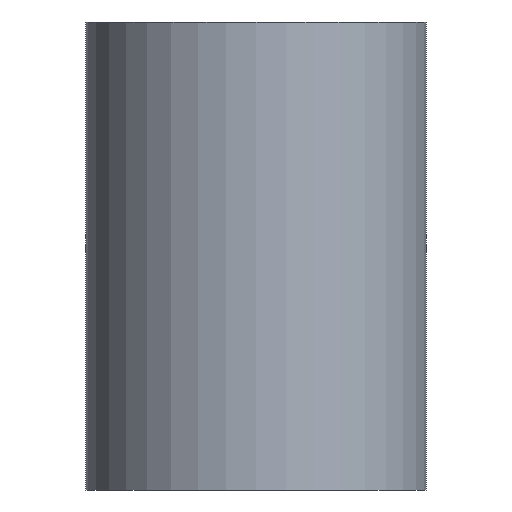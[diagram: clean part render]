
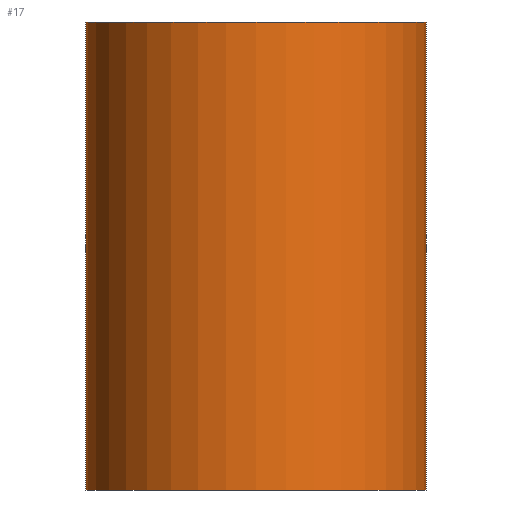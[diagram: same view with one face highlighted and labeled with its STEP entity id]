
A CAD part, front view. The second image highlights one B-rep face of the part: STEP entity #17.
In plain terms, the highlighted cylindrical face has radius 2 mm (diameter 4 mm), a full revolution.
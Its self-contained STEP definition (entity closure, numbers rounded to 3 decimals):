
#17 = ADVANCED_FACE('',(#18),#32,.T.);
#18 = FACE_BOUND('',#19,.F.);
#19 = EDGE_LOOP('',(#20,#50,#77,#78));
#20 = ORIENTED_EDGE('',*,*,#21,.T.);
#21 = EDGE_CURVE('',#22,#24,#26,.T.);
#22 = VERTEX_POINT('',#23);
#23 = CARTESIAN_POINT('',(-8.8,-43.,3.15));
#24 = VERTEX_POINT('',#25);
#25 = CARTESIAN_POINT('',(-8.8,-43.,8.65));
#26 = SEAM_CURVE('',#27,(#31,#43),.PCURVE_S1.);
#27 = LINE('',#28,#29);
#28 = CARTESIAN_POINT('',(-8.8,-43.,3.15));
#29 = VECTOR('',#30,1.);
#30 = DIRECTION('',(0.,0.,1.));
#31 = PCURVE('',#32,#37);
#32 = CYLINDRICAL_SURFACE('',#33,2.);
#33 = AXIS2_PLACEMENT_3D('',#34,#35,#36);
#34 = CARTESIAN_POINT('',(-10.8,-43.,3.15));
#35 = DIRECTION('',(-0.,-0.,-1.));
#36 = DIRECTION('',(1.,0.,0.));
#37 = DEFINITIONAL_REPRESENTATION('',(#38),#42);
#38 = LINE('',#39,#40);
#39 = CARTESIAN_POINT('',(-0.,0.));
#40 = VECTOR('',#41,1.);
#41 = DIRECTION('',(-0.,-1.));
#42 = ( GEOMETRIC_REPRESENTATION_CONTEXT(2) 
PARAMETRIC_REPRESENTATION_CONTEXT() REPRESENTATION_CONTEXT('2D SPACE',''
  ) );
#43 = PCURVE('',#32,#44);
#44 = DEFINITIONAL_REPRESENTATION('',(#45),#49);
#45 = LINE('',#46,#47);
#46 = CARTESIAN_POINT('',(-6.283,0.));
#47 = VECTOR('',#48,1.);
#48 = DIRECTION('',(-0.,-1.));
#49 = ( GEOMETRIC_REPRESENTATION_CONTEXT(2) 
PARAMETRIC_REPRESENTATION_CONTEXT() REPRESENTATION_CONTEXT('2D SPACE',''
  ) );
#50 = ORIENTED_EDGE('',*,*,#51,.T.);
#51 = EDGE_CURVE('',#24,#24,#52,.T.);
#52 = SURFACE_CURVE('',#53,(#58,#65),.PCURVE_S1.);
#53 = CIRCLE('',#54,2.);
#54 = AXIS2_PLACEMENT_3D('',#55,#56,#57);
#55 = CARTESIAN_POINT('',(-10.8,-43.,8.65));
#56 = DIRECTION('',(0.,0.,1.));
#57 = DIRECTION('',(1.,0.,0.));
#58 = PCURVE('',#32,#59);
#59 = DEFINITIONAL_REPRESENTATION('',(#60),#64);
#60 = LINE('',#61,#62);
#61 = CARTESIAN_POINT('',(-0.,-5.5));
#62 = VECTOR('',#63,1.);
#63 = DIRECTION('',(-1.,0.));
#64 = ( GEOMETRIC_REPRESENTATION_CONTEXT(2) 
PARAMETRIC_REPRESENTATION_CONTEXT() REPRESENTATION_CONTEXT('2D SPACE',''
  ) );
#65 = PCURVE('',#66,#71);
#66 = PLANE('',#67);
#67 = AXIS2_PLACEMENT_3D('',#68,#69,#70);
#68 = CARTESIAN_POINT('',(-10.8,-43.,8.65));
#69 = DIRECTION('',(0.,0.,1.));
#70 = DIRECTION('',(1.,0.,-0.));
#71 = DEFINITIONAL_REPRESENTATION('',(#72),#76);
#72 = CIRCLE('',#73,2.);
#73 = AXIS2_PLACEMENT_2D('',#74,#75);
#74 = CARTESIAN_POINT('',(0.,0.));
#75 = DIRECTION('',(1.,0.));
#76 = ( GEOMETRIC_REPRESENTATION_CONTEXT(2) 
PARAMETRIC_REPRESENTATION_CONTEXT() REPRESENTATION_CONTEXT('2D SPACE',''
  ) );
#77 = ORIENTED_EDGE('',*,*,#21,.F.);
#78 = ORIENTED_EDGE('',*,*,#79,.F.);
#79 = EDGE_CURVE('',#22,#22,#80,.T.);
#80 = SURFACE_CURVE('',#81,(#86,#93),.PCURVE_S1.);
#81 = CIRCLE('',#82,2.);
#82 = AXIS2_PLACEMENT_3D('',#83,#84,#85);
#83 = CARTESIAN_POINT('',(-10.8,-43.,3.15));
#84 = DIRECTION('',(0.,0.,1.));
#85 = DIRECTION('',(1.,0.,0.));
#86 = PCURVE('',#32,#87);
#87 = DEFINITIONAL_REPRESENTATION('',(#88),#92);
#88 = LINE('',#89,#90);
#89 = CARTESIAN_POINT('',(-0.,0.));
#90 = VECTOR('',#91,1.);
#91 = DIRECTION('',(-1.,0.));
#92 = ( GEOMETRIC_REPRESENTATION_CONTEXT(2) 
PARAMETRIC_REPRESENTATION_CONTEXT() REPRESENTATION_CONTEXT('2D SPACE',''
  ) );
#93 = PCURVE('',#94,#99);
#94 = PLANE('',#95);
#95 = AXIS2_PLACEMENT_3D('',#96,#97,#98);
#96 = CARTESIAN_POINT('',(-10.8,-43.,3.15));
#97 = DIRECTION('',(0.,0.,1.));
#98 = DIRECTION('',(1.,0.,-0.));
#99 = DEFINITIONAL_REPRESENTATION('',(#100),#104);
#100 = CIRCLE('',#101,2.);
#101 = AXIS2_PLACEMENT_2D('',#102,#103);
#102 = CARTESIAN_POINT('',(0.,0.));
#103 = DIRECTION('',(1.,0.));
#104 = ( GEOMETRIC_REPRESENTATION_CONTEXT(2) 
PARAMETRIC_REPRESENTATION_CONTEXT() REPRESENTATION_CONTEXT('2D SPACE',''
  ) );
